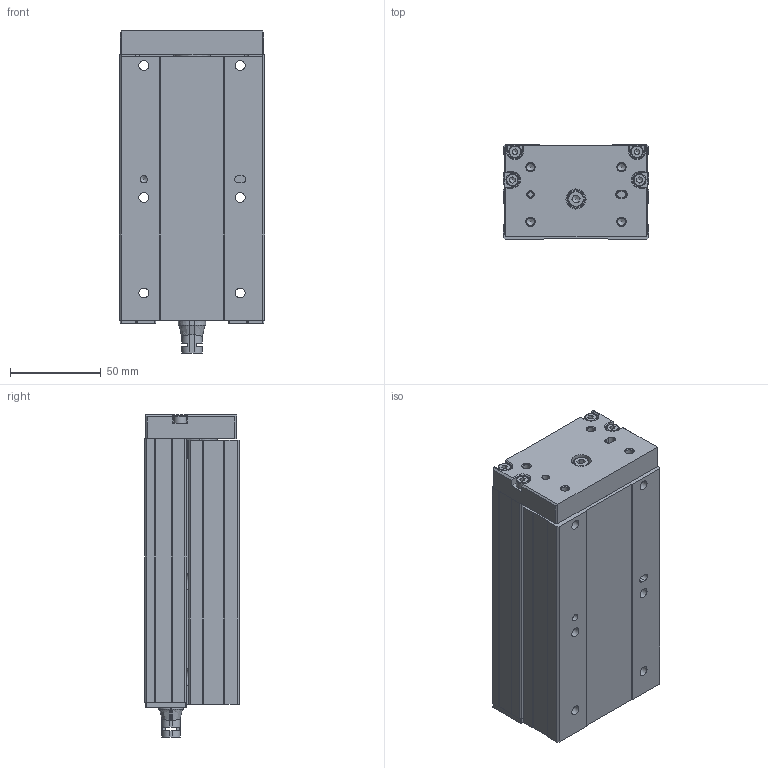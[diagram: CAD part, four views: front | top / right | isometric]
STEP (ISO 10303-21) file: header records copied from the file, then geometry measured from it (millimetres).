
FILE_DESCRIPTION((''),'2;1');
FILE_NAME('C:\Users\RD_15\Desktop\DSM40-75-3D外型.stp','2020-10-20T14:35:33',('RD_15'),(''),'Autodesk Inventor 2013','Autodesk Inventor 2013','');
FILE_SCHEMA(('AUTOMOTIVE_DESIGN { 1 0 10303 214 1 1 1 1 }'));
Length unit declared in the file: millimetre
Products named in the file (66): DSM40-75-3D外型; DMG40-75本體; 零件4546; 零件4550; 零件4552; 組合29; 零件4774; 零件4782; 零件4804; 零件4806; 零件4808; 零件4810; 零件4812; 零件4814; 零件4816; 零件4820; 組合61; 零件4776; 零件4778; 零件4784; 零件4786; 零件4788; 零件4790; 零件4792; 零件4796; 零件4798; 零件4800; 零件4926; 零件4928; 零件4930; 零件4932; 零件4936; 零件4938; 零件4940; 零件4942; 組合31; 零件4738; 零件4842; 零件4844; 零件4846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
Assembly tree (67 placements, depth 3):
  DSM40-75-3D外型
    DMG40-75本體
    零件4546
    零件4550
    零件4552
    組合29
      零件4774
      零件4782
      零件4804
      零件4806
      零件4808
      零件4810
      零件4812
      零件4814
      零件4816
      零件4820
    組合61
      零件4776
      零件4778
      零件4784
      零件4786
      零件4788
      零件4790
      零件4792
      零件4796
      零件4798
      零件4800
      零件4926
      零件4928
      零件4930
      零件4932
      零件4936
      零件4938
      零件4940
      零件4942
    組合31
      零件4738
      零件4842
      零件4844
      零件4846
      零件4848
      零件4850
      零件4852
      零件4854
      零件4856
      零件4858
      零件4860
      零件4862
      零件4864
      零件4866
      零件4868  x3
      零件4870
      零件4872
      零件4874
      零件4876
      零件4878
      零件4880
      零件4882
      零件4946
      零件4948
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Bounding box: 80 x 52 x 177 mm (x, y, z)
Volume: 588368.2 mm3; surface area: 137601.2 mm2
Topology: 64 solids, 67 shells, 3027 faces, 7981 edges, 5161 vertices
Faces by surface type: plane 1990, cylinder 440, cone 413, torus 118, bspline 52, sphere 14
Full cylindrical faces by diameter (mm): 1 x4, 1.783 x8, 2 x8, 2.224 x8, 2.459 x4, 2.5 x8, 3 x16, 3.242 x4, 3.5 x5, 4 x7, 4.059 x4, 4.134 x8, 4.5 x4, 4.7 x8, 5 x1, 5.1 x2, 5.3 x2, 5.4 x6, 5.54 x4, 5.6 x2, 5.9 x2, 6.2 x2, 7 x4, 8 x1, 8.5 x1, 9 x13, 10 x2, 10.3 x1, 11 x2, 12.8 x1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
Entity records: 99495 total; most frequent: CARTESIAN_POINT 24821, ORIENTED_EDGE 14770, DIRECTION 14728, EDGE_CURVE 7385, VECTOR 5344, LINE 5344, VERTEX_POINT 4975, AXIS2_PLACEMENT_3D 4692
